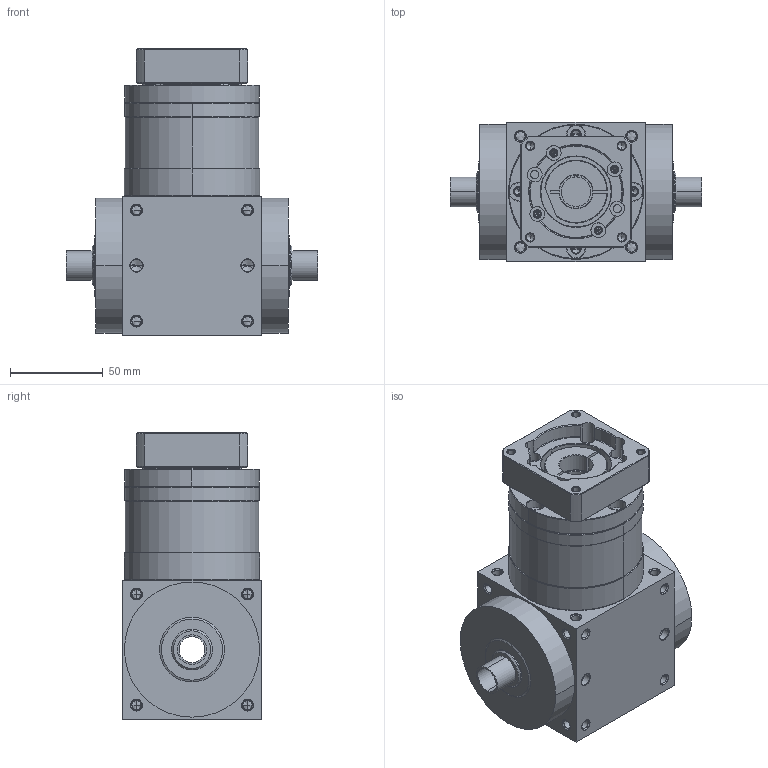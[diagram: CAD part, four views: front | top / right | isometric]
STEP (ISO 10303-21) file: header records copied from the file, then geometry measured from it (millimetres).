
FILE_DESCRIPTION((''),'2;1');
FILE_NAME('AT075FC1-P0403200503_ASM','2009-01-21T',('d00080'),(''),'PRO/ENGINEER BY PARAMETRIC TECHNOLOGY CORPORATION, 2006170','PRO/ENGINEER BY PARAMETRIC TECHNOLOGY CORPORATION, 2006170','');
FILE_SCHEMA(('CONFIG_CONTROL_DESIGN'));
Length unit declared in the file: millimetre
Products named in the file (6): AT075FC-A; P1801300001; P1502300001; P0501200001; P0403200503; AT075FC1-P0403200503_ASM
Assembly tree (5 placements, depth 2):
  AT075FC1-P0403200503_ASM
    AT075FC-A
    P1801300001
    P1502300001
    P0501200001
    P0403200503
Bounding box: 136 x 75 x 154.5 mm (x, y, z)
Volume: 710933.9 mm3; surface area: 122404.1 mm2
Topology: 5 solids, 45 shells, 780 faces, 2013 edges, 1234 vertices
Faces by surface type: cylinder 345, cone 274, plane 115, torus 42, bspline 4
Entity records: 25068 total; most frequent: CARTESIAN_POINT 5944, DIRECTION 4231, ORIENTED_EDGE 3722, EDGE_CURVE 1941, AXIS2_PLACEMENT_3D 1788, VERTEX_POINT 1234, CIRCLE 991, EDGE_LOOP 929
